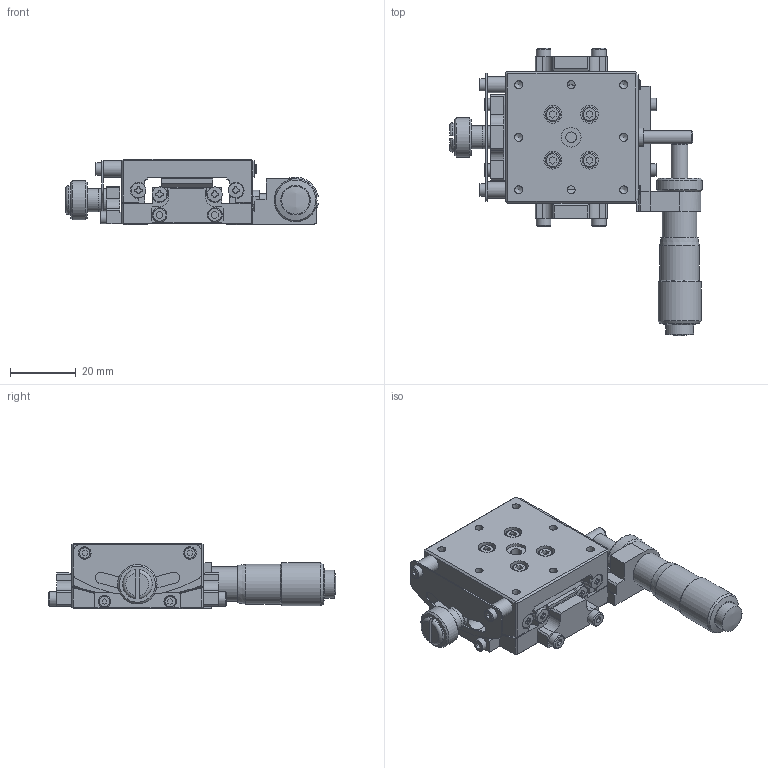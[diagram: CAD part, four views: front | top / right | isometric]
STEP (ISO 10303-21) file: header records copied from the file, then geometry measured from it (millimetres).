
FILE_DESCRIPTION((''),'2;1');
FILE_NAME('Y:\3DDATA\2_OpticalHard\02_海外製品\1_Stags\GOHT\□40ﾏｲｸﾛ式\GOHT-40A40BMSR\GOHT-40A40BMSR.stp','2014-02-27T18:50:23',('m.kadoya'),(''),'Autodesk Inventor 2008','Autodesk Inventor 2008','');
FILE_SCHEMA(('AUTOMOTIVE_DESIGN { 1 0 10303 214 1 1 1 1 }'));
Length unit declared in the file: millimetre
Products named in the file (4): GOHT40A40BMSR-M02-13001-TS01; GOHT40A40BMSR-M02-13001-S10; GOHT40A40BMSR-M02-13001-S11; SHS2-13-C1-S01
Assembly tree (3 placements, depth 2):
  GOHT40A40BMSR-M02-13001-TS01
    GOHT40A40BMSR-M02-13001-S10
    GOHT40A40BMSR-M02-13001-S11
    SHS2-13-C1-S01
Bounding box: 76.93 x 87.47 x 20 mm (x, y, z)
Volume: 33155.4 mm3; surface area: 24422.2 mm2
Topology: 17 solids, 32 shells, 937 faces, 2256 edges, 1466 vertices
Faces by surface type: plane 540, cylinder 169, bspline 150, cone 61, sphere 9, torus 8
Full cylindrical faces by diameter (mm): 1.567 x2, 1.6 x1, 2 x10, 2.5 x8, 3 x4, 3.5 x4, 3.8 x6, 4 x1, 4.2 x1, 4.5 x16, 4.6 x1, 5 x5, 6 x5, 7 x3, 7.3 x2, 7.5 x1, 8.5 x2, 9 x1, 9.9 x1, 10.5 x1, 10.7 x1, 12 x1, 12.1 x1, 13.1 x1
Entity records: 29311 total; most frequent: CARTESIAN_POINT 9200, DIRECTION 3957, ORIENTED_EDGE 3822, EDGE_CURVE 1911, AXIS2_PLACEMENT_3D 1418, VERTEX_POINT 1360, EDGE_LOOP 1335, VECTOR 1121
